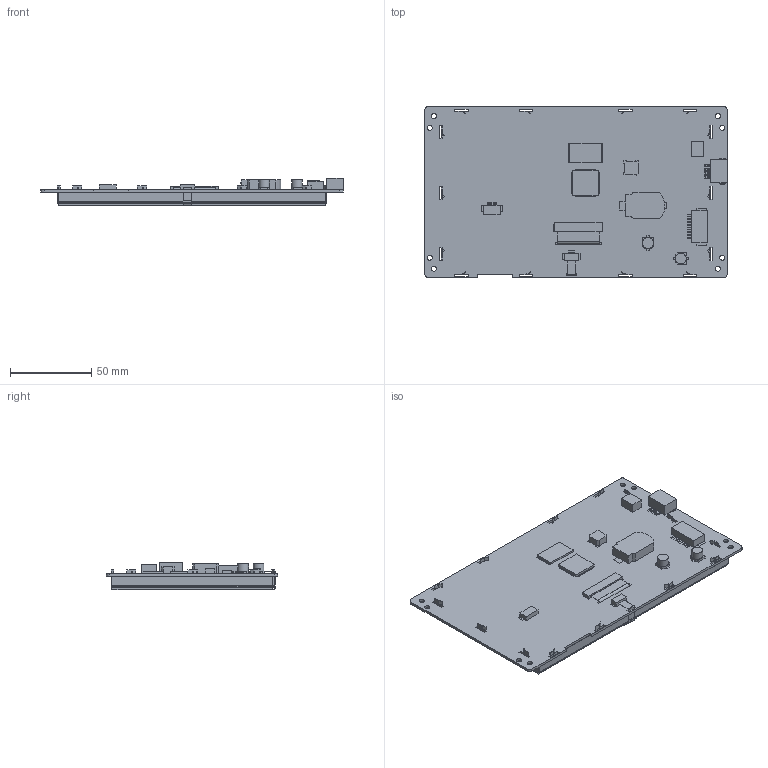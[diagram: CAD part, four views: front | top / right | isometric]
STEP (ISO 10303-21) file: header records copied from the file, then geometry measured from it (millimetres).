
FILE_DESCRIPTION(/* description */ (''),/* implementation_level */ '2;1');
FILE_NAME(/* name */ '3D_SDWe070T77T.stp',/* time_stamp */ '2020-09-10T17:15:15+08:00',/* author */ (''),/* organization */ (''),/* preprocessor_version */ 'ST-DEVELOPER v15',/* originating_system */ 'SIEMENS PLM Software NX 8.5',/* authorisation */ '');
FILE_SCHEMA (('AP203_CONFIGURATION_CONTROLLED_3D_DESIGN_OF_MECHANICAL_PARTS_AND_ASSEMBLIES_MIM_LF { 1 0 10303 403 2 1 2}'));
Length unit declared in the file: millimetre
Products named in the file (1): SDWe070T77
Bounding box: 186.3 x 105.4 x 16.91 mm (x, y, z)
Volume: 246576.1 mm3; surface area: 164982.4 mm2
Topology: 326 solids, 326 shells, 2205 faces, 4633 edges, 3080 vertices
Faces by surface type: plane 2134, cylinder 63, extrusion 8
Full cylindrical faces by diameter (mm): 3.2 x8, 6.567 x1, 6.776 x1
Entity records: 61993 total; most frequent: CARTESIAN_POINT 10304, ORIENTED_EDGE 9238, DIRECTION 9092, EDGE_CURVE 4619, VECTOR 4444, LINE 4436, VERTEX_POINT 3080, AXIS2_PLACEMENT_3D 2324
